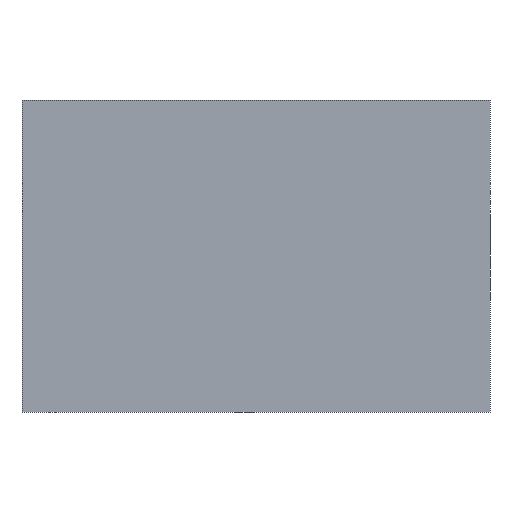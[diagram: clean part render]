
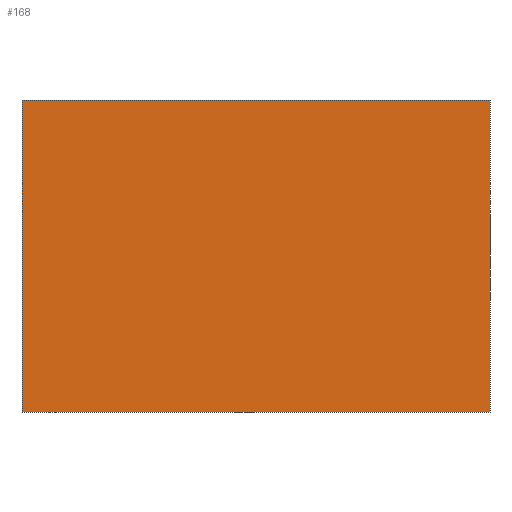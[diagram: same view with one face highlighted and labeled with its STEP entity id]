
A CAD part, front view. The second image highlights one B-rep face of the part: STEP entity #168.
In plain terms, the highlighted planar face has unit normal (0, -1, 0).
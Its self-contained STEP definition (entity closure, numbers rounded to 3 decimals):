
#21 = EDGE_CURVE('',#22,#24,#26,.T.);
#22 = VERTEX_POINT('',#23);
#23 = CARTESIAN_POINT('',(0.,-28.,-6.));
#24 = VERTEX_POINT('',#25);
#25 = CARTESIAN_POINT('',(0.,-28.,6.));
#26 = SURFACE_CURVE('',#27,(#31,#43),.PCURVE_S1.);
#27 = LINE('',#28,#29);
#28 = CARTESIAN_POINT('',(0.,-28.,-6.));
#29 = VECTOR('',#30,1.);
#30 = DIRECTION('',(0.,0.,1.));
#31 = PCURVE('',#32,#37);
#32 = PLANE('',#33);
#33 = AXIS2_PLACEMENT_3D('',#34,#35,#36);
#34 = CARTESIAN_POINT('',(0.,-28.,-6.));
#35 = DIRECTION('',(-1.,-0.,0.));
#36 = DIRECTION('',(0.,0.,-1.));
#37 = DEFINITIONAL_REPRESENTATION('',(#38),#42);
#38 = LINE('',#39,#40);
#39 = CARTESIAN_POINT('',(-0.,-0.));
#40 = VECTOR('',#41,1.);
#41 = DIRECTION('',(-1.,-0.));
#42 = ( GEOMETRIC_REPRESENTATION_CONTEXT(2) 
PARAMETRIC_REPRESENTATION_CONTEXT() REPRESENTATION_CONTEXT('2D SPACE',''
  ) );
#43 = PCURVE('',#44,#49);
#44 = PLANE('',#45);
#45 = AXIS2_PLACEMENT_3D('',#46,#47,#48);
#46 = CARTESIAN_POINT('',(0.,-28.,-6.));
#47 = DIRECTION('',(-0.,1.,-0.));
#48 = DIRECTION('',(0.,0.,-1.));
#49 = DEFINITIONAL_REPRESENTATION('',(#50),#54);
#50 = LINE('',#51,#52);
#51 = CARTESIAN_POINT('',(-0.,-0.));
#52 = VECTOR('',#53,1.);
#53 = DIRECTION('',(-1.,-0.));
#54 = ( GEOMETRIC_REPRESENTATION_CONTEXT(2) 
PARAMETRIC_REPRESENTATION_CONTEXT() REPRESENTATION_CONTEXT('2D SPACE',''
  ) );
#72 = PLANE('',#73);
#73 = AXIS2_PLACEMENT_3D('',#74,#75,#76);
#74 = CARTESIAN_POINT('',(0.,-28.,-6.));
#75 = DIRECTION('',(-0.,-0.,1.));
#76 = DIRECTION('',(1.,0.,0.));
#126 = PLANE('',#127);
#127 = AXIS2_PLACEMENT_3D('',#128,#129,#130);
#128 = CARTESIAN_POINT('',(0.,-28.,6.));
#129 = DIRECTION('',(-0.,-0.,1.));
#130 = DIRECTION('',(1.,0.,0.));
#168 = ADVANCED_FACE('',(#169),#44,.F.);
#169 = FACE_BOUND('',#170,.T.);
#170 = EDGE_LOOP('',(#171,#194,#195,#218));
#171 = ORIENTED_EDGE('',*,*,#172,.F.);
#172 = EDGE_CURVE('',#22,#173,#175,.T.);
#173 = VERTEX_POINT('',#174);
#174 = CARTESIAN_POINT('',(-18.,-28.,-6.));
#175 = SURFACE_CURVE('',#176,(#180,#187),.PCURVE_S1.);
#176 = LINE('',#177,#178);
#177 = CARTESIAN_POINT('',(0.,-28.,-6.));
#178 = VECTOR('',#179,1.);
#179 = DIRECTION('',(-1.,-0.,-0.));
#180 = PCURVE('',#44,#181);
#181 = DEFINITIONAL_REPRESENTATION('',(#182),#186);
#182 = LINE('',#183,#184);
#183 = CARTESIAN_POINT('',(-0.,-0.));
#184 = VECTOR('',#185,1.);
#185 = DIRECTION('',(-0.,1.));
#186 = ( GEOMETRIC_REPRESENTATION_CONTEXT(2) 
PARAMETRIC_REPRESENTATION_CONTEXT() REPRESENTATION_CONTEXT('2D SPACE',''
  ) );
#187 = PCURVE('',#72,#188);
#188 = DEFINITIONAL_REPRESENTATION('',(#189),#193);
#189 = LINE('',#190,#191);
#190 = CARTESIAN_POINT('',(0.,-0.));
#191 = VECTOR('',#192,1.);
#192 = DIRECTION('',(-1.,0.));
#193 = ( GEOMETRIC_REPRESENTATION_CONTEXT(2) 
PARAMETRIC_REPRESENTATION_CONTEXT() REPRESENTATION_CONTEXT('2D SPACE',''
  ) );
#194 = ORIENTED_EDGE('',*,*,#21,.T.);
#195 = ORIENTED_EDGE('',*,*,#196,.F.);
#196 = EDGE_CURVE('',#197,#24,#199,.T.);
#197 = VERTEX_POINT('',#198);
#198 = CARTESIAN_POINT('',(-18.,-28.,6.));
#199 = SURFACE_CURVE('',#200,(#204,#211),.PCURVE_S1.);
#200 = LINE('',#201,#202);
#201 = CARTESIAN_POINT('',(-18.,-28.,6.));
#202 = VECTOR('',#203,1.);
#203 = DIRECTION('',(1.,-0.,-0.));
#204 = PCURVE('',#44,#205);
#205 = DEFINITIONAL_REPRESENTATION('',(#206),#210);
#206 = LINE('',#207,#208);
#207 = CARTESIAN_POINT('',(-12.,18.));
#208 = VECTOR('',#209,1.);
#209 = DIRECTION('',(-0.,-1.));
#210 = ( GEOMETRIC_REPRESENTATION_CONTEXT(2) 
PARAMETRIC_REPRESENTATION_CONTEXT() REPRESENTATION_CONTEXT('2D SPACE',''
  ) );
#211 = PCURVE('',#126,#212);
#212 = DEFINITIONAL_REPRESENTATION('',(#213),#217);
#213 = LINE('',#214,#215);
#214 = CARTESIAN_POINT('',(-18.,0.));
#215 = VECTOR('',#216,1.);
#216 = DIRECTION('',(1.,-0.));
#217 = ( GEOMETRIC_REPRESENTATION_CONTEXT(2) 
PARAMETRIC_REPRESENTATION_CONTEXT() REPRESENTATION_CONTEXT('2D SPACE',''
  ) );
#218 = ORIENTED_EDGE('',*,*,#219,.F.);
#219 = EDGE_CURVE('',#173,#197,#220,.T.);
#220 = SURFACE_CURVE('',#221,(#225,#232),.PCURVE_S1.);
#221 = LINE('',#222,#223);
#222 = CARTESIAN_POINT('',(-18.,-28.,-6.));
#223 = VECTOR('',#224,1.);
#224 = DIRECTION('',(0.,0.,1.));
#225 = PCURVE('',#44,#226);
#226 = DEFINITIONAL_REPRESENTATION('',(#227),#231);
#227 = LINE('',#228,#229);
#228 = CARTESIAN_POINT('',(-0.,18.));
#229 = VECTOR('',#230,1.);
#230 = DIRECTION('',(-1.,-0.));
#231 = ( GEOMETRIC_REPRESENTATION_CONTEXT(2) 
PARAMETRIC_REPRESENTATION_CONTEXT() REPRESENTATION_CONTEXT('2D SPACE',''
  ) );
#232 = PCURVE('',#233,#238);
#233 = PLANE('',#234);
#234 = AXIS2_PLACEMENT_3D('',#235,#236,#237);
#235 = CARTESIAN_POINT('',(-18.,-28.,-6.));
#236 = DIRECTION('',(-1.,-0.,-0.));
#237 = DIRECTION('',(0.,0.,-1.));
#238 = DEFINITIONAL_REPRESENTATION('',(#239),#243);
#239 = LINE('',#240,#241);
#240 = CARTESIAN_POINT('',(-0.,-0.));
#241 = VECTOR('',#242,1.);
#242 = DIRECTION('',(-1.,-0.));
#243 = ( GEOMETRIC_REPRESENTATION_CONTEXT(2) 
PARAMETRIC_REPRESENTATION_CONTEXT() REPRESENTATION_CONTEXT('2D SPACE',''
  ) );
